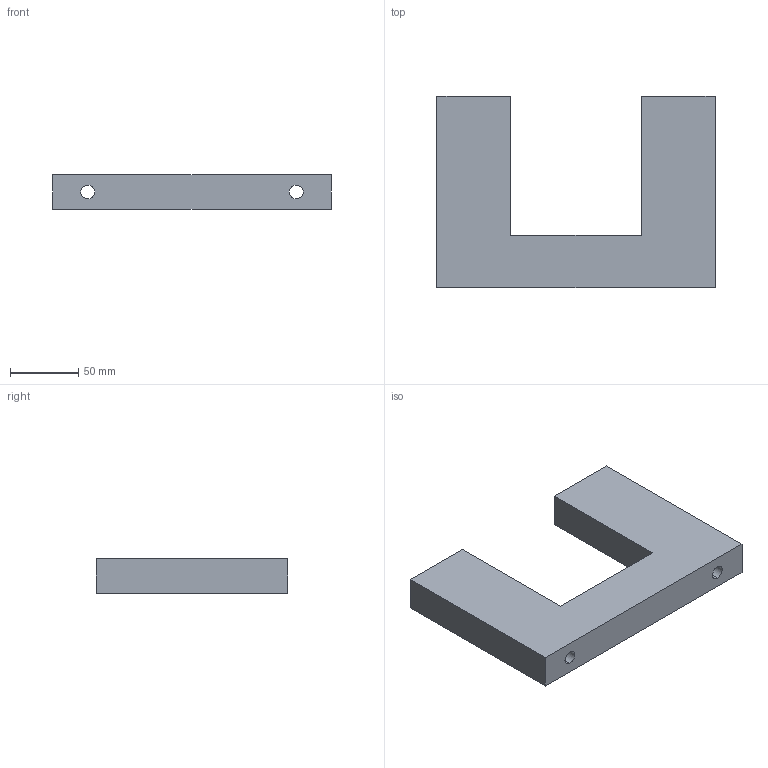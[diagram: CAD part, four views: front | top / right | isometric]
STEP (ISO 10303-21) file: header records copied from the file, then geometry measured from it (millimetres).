
FILE_DESCRIPTION (( 'STEP AP203' ), '1' );
FILE_NAME ('269-18-414.STEP', '2020-03-02T20:35:23', ( '' ), ( '' ), 'SwSTEP 2.0', 'SolidWorks 2017', '' );
FILE_SCHEMA (( 'CONFIG_CONTROL_DESIGN' ));
Length unit declared in the file: inch
Products named in the file (1): 269-18-414
Bounding box: 203.2 x 139.7 x 25.4 mm (x, y, z)
Volume: 432668.2 mm3; surface area: 71650.9 mm2
Topology: 1 solids, 1 shells, 20 faces, 48 edges, 32 vertices
Faces by surface type: plane 12, cylinder 8
Entity records: 675 total; most frequent: DIRECTION 106, CARTESIAN_POINT 101, ORIENTED_EDGE 96, EDGE_CURVE 48, AXIS2_PLACEMENT_3D 37, VERTEX_POINT 32, LINE 32, VECTOR 32
